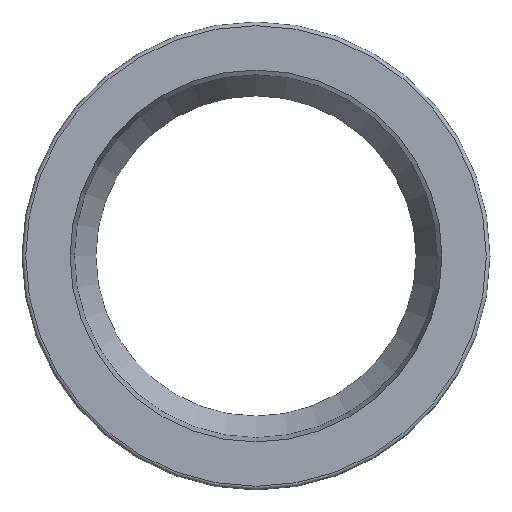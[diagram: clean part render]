
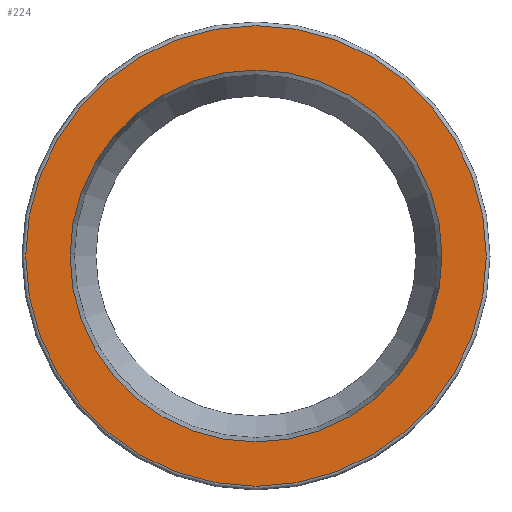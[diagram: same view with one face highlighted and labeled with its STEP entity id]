
A CAD part, left-side view. The second image highlights one B-rep face of the part: STEP entity #224.
In plain terms, the highlighted planar face has unit normal (-1, 0, 0).
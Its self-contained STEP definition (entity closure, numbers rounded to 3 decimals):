
#20=FACE_BOUND('',#66,.T.);
#24=PLANE('',#274);
#49=FACE_OUTER_BOUND('',#65,.T.);
#65=EDGE_LOOP('',(#176));
#66=EDGE_LOOP('',(#177));
#87=CIRCLE('',#270,18.7);
#90=CIRCLE('',#275,15.1);
#109=VERTEX_POINT('',#404);
#112=VERTEX_POINT('',#414);
#132=EDGE_CURVE('',#109,#109,#87,.T.);
#136=EDGE_CURVE('',#112,#112,#90,.T.);
#176=ORIENTED_EDGE('',*,*,#132,.F.);
#177=ORIENTED_EDGE('',*,*,#136,.T.);
#224=ADVANCED_FACE('',(#49,#20),#24,.T.);
#270=AXIS2_PLACEMENT_3D('',#406,#325,#326);
#274=AXIS2_PLACEMENT_3D('',#413,#334,#335);
#275=AXIS2_PLACEMENT_3D('',#415,#336,#337);
#325=DIRECTION('center_axis',(1.,0.,0.));
#326=DIRECTION('ref_axis',(0.,-1.,0.));
#334=DIRECTION('center_axis',(-1.,0.,0.));
#335=DIRECTION('ref_axis',(0.,0.,1.));
#336=DIRECTION('center_axis',(1.,0.,0.));
#337=DIRECTION('ref_axis',(0.,1.,0.));
#404=CARTESIAN_POINT('',(0.,0.,18.7));
#406=CARTESIAN_POINT('Origin',(0.,0.,
0.));
#413=CARTESIAN_POINT('Origin',(0.,17.05,0.));
#414=CARTESIAN_POINT('',(0.,-15.1,0.));
#415=CARTESIAN_POINT('Origin',(0.,0.,
0.));
